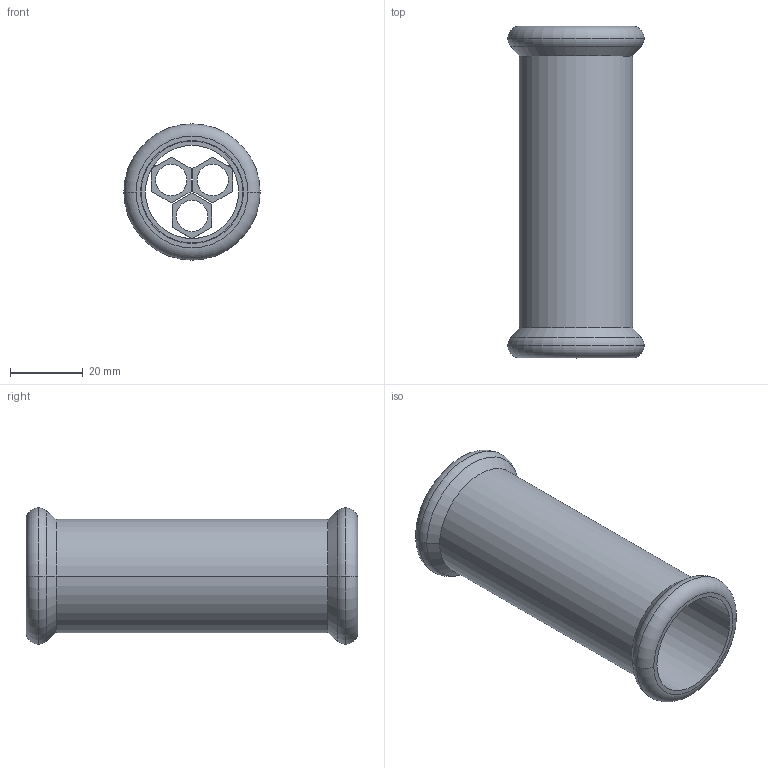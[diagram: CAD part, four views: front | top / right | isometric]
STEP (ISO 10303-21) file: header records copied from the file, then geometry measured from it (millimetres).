
FILE_DESCRIPTION(('OneSpaceDesigner STEP Export'),'2;1');
FILE_NAME('R2703 28x28.pkg.stp','2010-06-09T 9:06:28',(''),(''),'OneSpace Designer STEP processor for AP214 (Solid Model)','OneSpace Modeling 15.00A 14-Mar-2007 (C) CoCreate Software GmbH','');
FILE_SCHEMA(('AUTOMOTIVE_DESIGN { 1 0 10303 214 1 1 1 1 }'));
Length unit declared in the file: millimetre
Products named in the file (2): R2703_28x28
Assembly tree (1 placements, depth 2):
  R2703_28x28
    R2703_28x28
Bounding box: 37.45 x 91.2 x 37.45 mm (x, y, z)
Volume: 22211.2 mm3; surface area: 19583.8 mm2
Topology: 1 solids, 1 shells, 102 faces, 258 edges, 168 vertices
Faces by surface type: plane 60, cylinder 30, torus 8, cone 4
Entity records: 2831 total; most frequent: ORIENTED_EDGE 516, CARTESIAN_POINT 466, DIRECTION 430, EDGE_CURVE 258, VERTEX_POINT 168, VECTOR 166, LINE 166, AXIS2_PLACEMENT_3D 132
